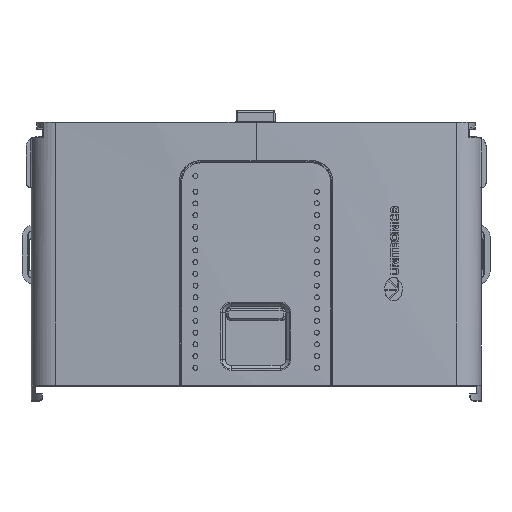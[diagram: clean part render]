
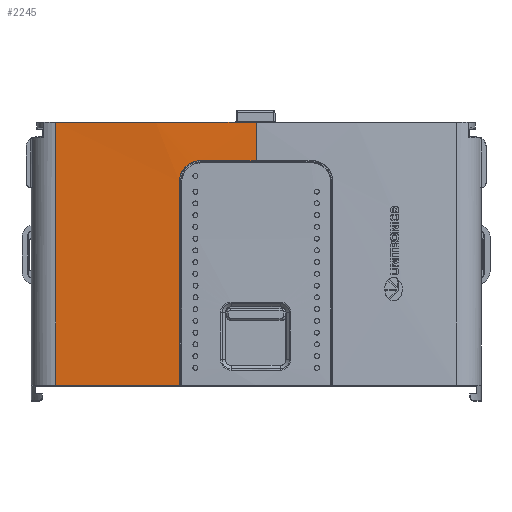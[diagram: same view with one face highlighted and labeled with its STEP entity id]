
A CAD part, left-side view. The second image highlights one B-rep face of the part: STEP entity #2245.
In plain terms, the highlighted cylindrical face has radius 470 mm (diameter 940 mm), a partial arc.
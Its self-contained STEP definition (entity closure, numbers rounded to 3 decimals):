
#328 = VECTOR ( 'NONE', #55522, 1000. ) ;
#1832 = EDGE_CURVE ( 'NONE', #63434, #63436, #55506, .T. ) ;
#2245 = ADVANCED_FACE ( 'NONE', ( #115677 ), #115671, .T. ) ;
#15612 = AXIS2_PLACEMENT_3D ( 'NONE', #115678, #115676, #115673 ) ;
#17721 = CARTESIAN_POINT ( 'NONE',  ( -50.116, 51.178, -67.038 ) ) ;
#29251 = CARTESIAN_POINT ( 'NONE',  ( -52.592, 14.299, -9.724 ) ) ;
#29292 = CARTESIAN_POINT ( 'NONE',  ( -52.411, 19.583, -15.013 ) ) ;
#29293 = CARTESIAN_POINT ( 'NONE',  ( -52.501, 19.583, -67.013 ) ) ;
#32818 = VERTEX_POINT ( 'NONE', #69501 ) ;
#32823 = VERTEX_POINT ( 'NONE', #69518 ) ;
#46987 = EDGE_LOOP ( 'NONE', ( #52904, #52906, #52908, #52910, #52912, #52914, #52930 ) ) ;
#52904 = ORIENTED_EDGE ( 'NONE', *, *, #68613, .F. ) ;
#52906 = ORIENTED_EDGE ( 'NONE', *, *, #58523, .T. ) ;
#52908 = ORIENTED_EDGE ( 'NONE', *, *, #58486, .T. ) ;
#52910 = ORIENTED_EDGE ( 'NONE', *, *, #58537, .T. ) ;
#52912 = ORIENTED_EDGE ( 'NONE', *, *, #1832, .F. ) ;
#52914 = ORIENTED_EDGE ( 'NONE', *, *, #58565, .F. ) ;
#52930 = ORIENTED_EDGE ( 'NONE', *, *, #58567, .F. ) ;
#55506 = LINE ( 'NONE', #55517, #328 ) ;
#55517 = CARTESIAN_POINT ( 'NONE',  ( -52.184, 19.583, 114.834 ) ) ;
#55522 = DIRECTION ( 'NONE',  ( -0.002, 0., -1. ) ) ;
#58486 = EDGE_CURVE ( 'NONE', #61826, #102229, #111059, .T. ) ;
#58523 = EDGE_CURVE ( 'NONE', #32823, #61826, #117005, .T. ) ;
#58537 = EDGE_CURVE ( 'NONE', #102229, #63436, #117008, .T. ) ;
#58565 = EDGE_CURVE ( 'NONE', #63336, #63434, #119660, .T. ) ;
#58567 = EDGE_CURVE ( 'NONE', #32818, #63336, #119661, .T. ) ;
#61826 = VERTEX_POINT ( 'NONE', #108401 ) ;
#63336 = VERTEX_POINT ( 'NONE', #29251 ) ;
#63434 = VERTEX_POINT ( 'NONE', #29292 ) ;
#63436 = VERTEX_POINT ( 'NONE', #29293 ) ;
#68613 = EDGE_CURVE ( 'NONE', #32823, #32818, #112495, .T. ) ;
#69501 = CARTESIAN_POINT ( 'NONE',  ( -52.809, 0.016, -9.72 ) ) ;
#69518 = CARTESIAN_POINT ( 'NONE',  ( -52.792, 0.016, 0.072 ) ) ;
#87321 = VECTOR ( 'NONE', #111069, 1000. ) ;
#102229 = VERTEX_POINT ( 'NONE', #17721 ) ;
#106327 = VECTOR ( 'NONE', #112497, 1000. ) ;
#108401 = CARTESIAN_POINT ( 'NONE',  ( -49.999, 51.178, 0.091 ) ) ;
#111059 = LINE ( 'NONE', #111064, #87321 ) ;
#111064 = CARTESIAN_POINT ( 'NONE',  ( -49.799, 51.178, 114.83 ) ) ;
#111069 = DIRECTION ( 'NONE',  ( -0.002, 0., -1. ) ) ;
#111317 = CARTESIAN_POINT ( 'NONE',  ( -52.792, 0.016, 0.072 ) ) ;
#111328 = CARTESIAN_POINT ( 'NONE',  ( -52.792, 17.112, 0.072 ) ) ;
#111330 = CARTESIAN_POINT ( 'NONE',  ( -51.86, 34.183, 0.078 ) ) ;
#111332 = CARTESIAN_POINT ( 'NONE',  ( -49.999, 51.178, 0.091 ) ) ;
#111443 = CARTESIAN_POINT ( 'NONE',  ( -50.116, 51.178, -67.038 ) ) ;
#111451 = CARTESIAN_POINT ( 'NONE',  ( -51.266, 40.675, -67.026 ) ) ;
#111452 = CARTESIAN_POINT ( 'NONE',  ( -52.062, 30.139, -67.018 ) ) ;
#111453 = CARTESIAN_POINT ( 'NONE',  ( -52.501, 19.583, -67.013 ) ) ;
#111563 = CARTESIAN_POINT ( 'NONE',  ( -52.57, 14.991, -9.759 ) ) ;
#111568 = CARTESIAN_POINT ( 'NONE',  ( -52.581, 14.648, -9.724 ) ) ;
#111573 = CARTESIAN_POINT ( 'NONE',  ( -52.809, 4.777, -9.72 ) ) ;
#111574 = CARTESIAN_POINT ( 'NONE',  ( -52.592, 14.299, -9.724 ) ) ;
#111576 = CARTESIAN_POINT ( 'NONE',  ( -52.554, 15.498, -9.86 ) ) ;
#111577 = CARTESIAN_POINT ( 'NONE',  ( -52.549, 15.665, -9.902 ) ) ;
#111578 = CARTESIAN_POINT ( 'NONE',  ( -52.538, 15.997, -10.003 ) ) ;
#111579 = CARTESIAN_POINT ( 'NONE',  ( -52.532, 16.162, -10.061 ) ) ;
#111580 = CARTESIAN_POINT ( 'NONE',  ( -52.516, 16.641, -10.26 ) ) ;
#111581 = CARTESIAN_POINT ( 'NONE',  ( -52.505, 16.945, -10.423 ) ) ;
#111582 = CARTESIAN_POINT ( 'NONE',  ( -52.485, 17.519, -10.806 ) ) ;
#111583 = CARTESIAN_POINT ( 'NONE',  ( -52.475, 17.79, -11.029 ) ) ;
#111584 = CARTESIAN_POINT ( 'NONE',  ( -52.457, 18.278, -11.517 ) ) ;
#111585 = CARTESIAN_POINT ( 'NONE',  ( -52.449, 18.496, -11.783 ) ) ;
#111586 = CARTESIAN_POINT ( 'NONE',  ( -52.438, 18.786, -12.216 ) ) ;
#111587 = CARTESIAN_POINT ( 'NONE',  ( -52.435, 18.876, -12.366 ) ) ;
#111588 = CARTESIAN_POINT ( 'NONE',  ( -52.429, 19.039, -12.671 ) ) ;
#111589 = CARTESIAN_POINT ( 'NONE',  ( -52.426, 19.113, -12.826 ) ) ;
#111590 = CARTESIAN_POINT ( 'NONE',  ( -52.419, 19.311, -13.303 ) ) ;
#111591 = CARTESIAN_POINT ( 'NONE',  ( -52.415, 19.412, -13.635 ) ) ;
#111592 = CARTESIAN_POINT ( 'NONE',  ( -52.411, 19.548, -14.318 ) ) ;
#111593 = CARTESIAN_POINT ( 'NONE',  ( -52.41, 19.583, -14.664 ) ) ;
#111594 = CARTESIAN_POINT ( 'NONE',  ( -52.411, 19.583, -15.013 ) ) ;
#111596 = CARTESIAN_POINT ( 'NONE',  ( -52.809, 0.016, -9.72 ) ) ;
#111601 = CARTESIAN_POINT ( 'NONE',  ( -52.737, 9.538, -9.721 ) ) ;
#111602 = CARTESIAN_POINT ( 'NONE',  ( -52.592, 14.299, -9.724 ) ) ;
#112495 = LINE ( 'NONE', #112496, #106327 ) ;
#112496 = CARTESIAN_POINT ( 'NONE',  ( -52.591, 0.016, 114.835 ) ) ;
#112497 = DIRECTION ( 'NONE',  ( -0.002, 0., -1. ) ) ;
#115671 = CYLINDRICAL_SURFACE ( 'NONE', #15612, 470. ) ;
#115673 = DIRECTION ( 'NONE',  ( -1., 0., 0.002 ) ) ;
#115676 = DIRECTION ( 'NONE',  ( -0.002, 0., -1. ) ) ;
#115677 = FACE_OUTER_BOUND ( 'NONE', #46987, .T. ) ;
#115678 = CARTESIAN_POINT ( 'NONE',  ( 417.408, 0.016, 114.014 ) ) ;
#117005 =( BOUNDED_CURVE ( )  B_SPLINE_CURVE ( 3, ( #111317, #111328, #111330, #111332 ),
 .UNSPECIFIED., .F., .T. ) 
 B_SPLINE_CURVE_WITH_KNOTS ( ( 4, 4 ),
 ( 0., 0.109 ),
 .UNSPECIFIED. ) 
 CURVE ( )  GEOMETRIC_REPRESENTATION_ITEM ( )  RATIONAL_B_SPLINE_CURVE ( ( 1., 0.999, 0.999, 1. ) ) 
 REPRESENTATION_ITEM ( '' )  );
#117008 =( BOUNDED_CURVE ( )  B_SPLINE_CURVE ( 3, ( #111443, #111451, #111452, #111453 ),
 .UNSPECIFIED., .F., .T. ) 
 B_SPLINE_CURVE_WITH_KNOTS ( ( 4, 4 ),
 ( 6.174, 6.242 ),
 .UNSPECIFIED. ) 
 CURVE ( )  GEOMETRIC_REPRESENTATION_ITEM ( )  RATIONAL_B_SPLINE_CURVE ( ( 1., 1., 1., 1. ) ) 
 REPRESENTATION_ITEM ( '' )  );
#119660 = B_SPLINE_CURVE_WITH_KNOTS ( 'NONE', 3,
 ( #111574, #111568, #111563, #111576, #111577, #111578, #111579, #111580, #111581, #111582, #111583, #111584, #111585, #111586, #111587, #111588, #111589, #111590, #111591, #111592, #111593, #111594 ),
 .UNSPECIFIED., .F., .F.,
 ( 4, 2, 2, 2, 2, 2, 2, 2, 2, 2, 4 ),
 ( 0., 0.001, 0.002, 0.002, 0.003, 0.004, 0.005, 0.006, 0.006, 0.007, 0.008 ),
 .UNSPECIFIED. ) ;
#119661 = B_SPLINE_CURVE_WITH_KNOTS ( 'NONE', 3,
 ( #111596, #111573, #111601, #111602 ),
 .UNSPECIFIED., .F., .F.,
 ( 4, 4 ),
 ( 0.014, 0.029 ),
 .UNSPECIFIED. ) ;
